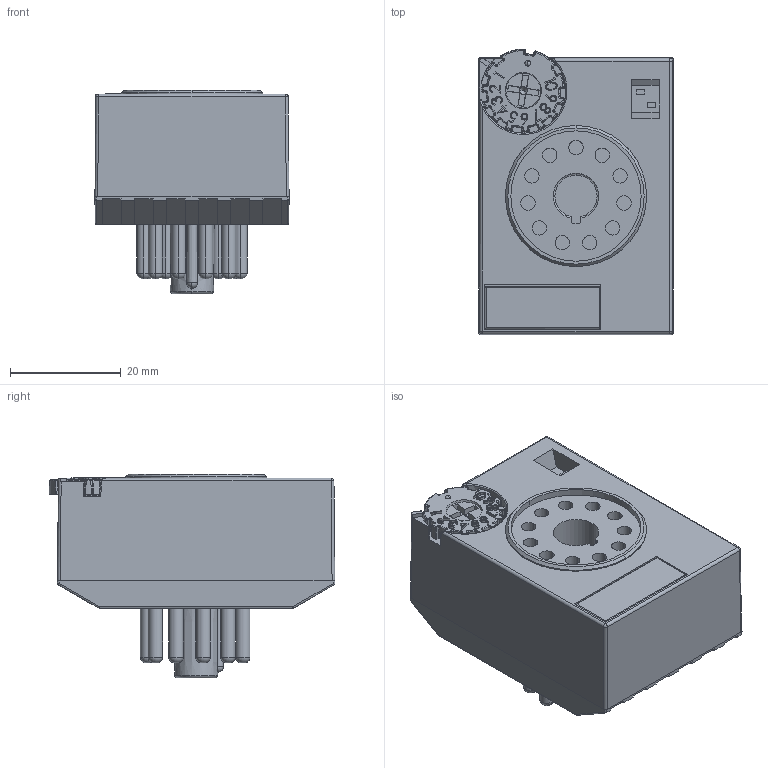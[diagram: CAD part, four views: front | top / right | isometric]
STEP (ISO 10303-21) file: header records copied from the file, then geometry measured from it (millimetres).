
FILE_DESCRIPTION (( 'STEP AP214' ), '1' );
FILE_NAME ('CT3-E30_CT3-B30.STEP', '2024-04-17T09:23:44', ( '' ), ( '' ), 'SwSTEP 2.0', 'SolidWorks 2022', '' );
FILE_SCHEMA (( 'AUTOMOTIVE_DESIGN' ));
Length unit declared in the file: millimetre
Products named in the file (1): CT3-E30_CT3-B30
Bounding box: 35 x 51.5 x 36.7 mm (x, y, z)
Volume: 38747.6 mm3; surface area: 11437.2 mm2
Topology: 1 solids, 18 shells, 734 faces, 1751 edges, 1103 vertices
Faces by surface type: plane 302, bspline 148, cylinder 131, torus 58, cone 56, sphere 39
Entity records: 33685 total; most frequent: CARTESIAN_POINT 10710, ORIENTED_EDGE 3476, DIRECTION 3052, EDGE_CURVE 1738, AXIS2_PLACEMENT_3D 1117, VERTEX_POINT 1096, LINE 818, VECTOR 818
